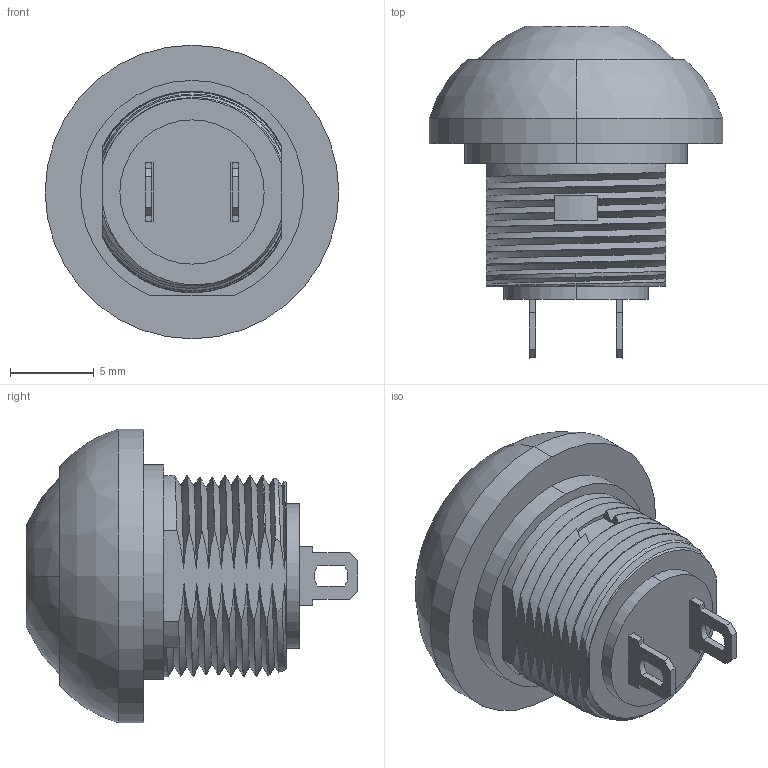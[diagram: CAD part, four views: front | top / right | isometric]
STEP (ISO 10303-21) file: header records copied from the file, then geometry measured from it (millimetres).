
FILE_DESCRIPTION (( 'STEP AP203' ), '1' );
FILE_NAME ('00.STEP', '2014-10-13T05:19:12', ( '970704' ), ( '' ), 'SwSTEP 2.0', 'SolidWorks 2012', '' );
FILE_SCHEMA (( 'CONFIG_CONTROL_DESIGN' ));
Length unit declared in the file: millimetre
Products named in the file (1): 00
Bounding box: 17.5 x 19.78 x 17.5 mm (x, y, z)
Volume: 2130.3 mm3; surface area: 1230.5 mm2
Topology: 1 solids, 1 shells, 151 faces, 419 edges, 277 vertices
Faces by surface type: bspline 58, plane 52, cylinder 37, sphere 4
Entity records: 6638 total; most frequent: CARTESIAN_POINT 3370, ORIENTED_EDGE 838, DIRECTION 436, EDGE_CURVE 419, VERTEX_POINT 277, LINE 166, VECTOR 166, EDGE_LOOP 162
